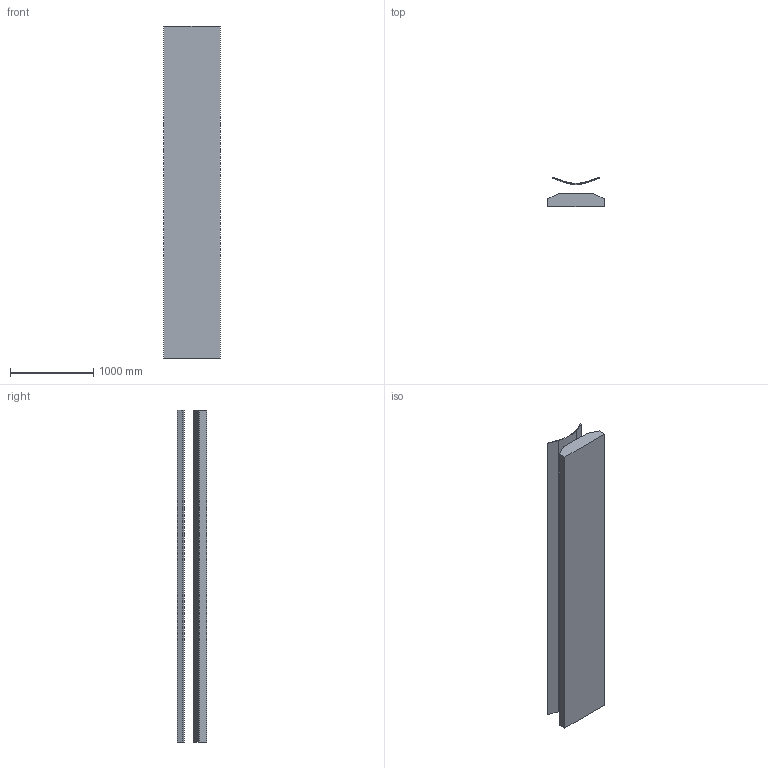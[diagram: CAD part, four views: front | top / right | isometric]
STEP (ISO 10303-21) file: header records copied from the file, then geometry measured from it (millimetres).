
FILE_DESCRIPTION (( 'STEP AP203' ), '1' );
FILE_NAME ('30046.step', '2019-03-14T14:31:09', ( 'PC' ), ( 'Hewlett-Packard Company' ), 'SwSTEP 2.0', 'SolidWorks 2016', '' );
FILE_SCHEMA (( 'CONFIG_CONTROL_DESIGN' ));
Length unit declared in the file: millimetre
Products named in the file (1): 30046
Bounding box: 680 x 353.35 x 4000 mm (x, y, z)
Volume: 415110638.2 mm3; surface area: 11341412.9 mm2
Topology: 2 solids, 2 shells, 18 faces, 42 edges, 28 vertices
Faces by surface type: plane 16, cylinder 2
Entity records: 585 total; most frequent: CARTESIAN_POINT 89, DIRECTION 84, ORIENTED_EDGE 84, EDGE_CURVE 42, VECTOR 38, LINE 38, VERTEX_POINT 28, AXIS2_PLACEMENT_3D 23
